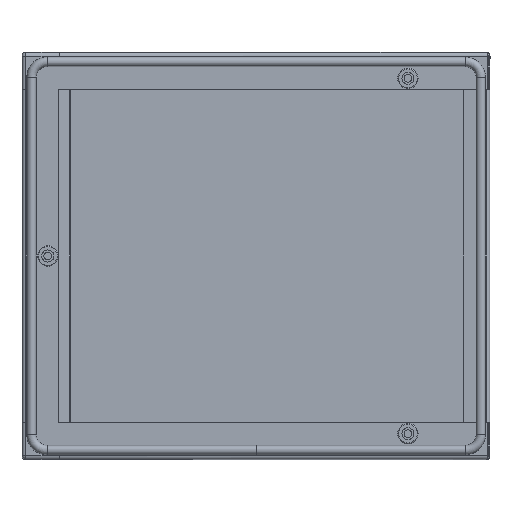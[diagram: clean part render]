
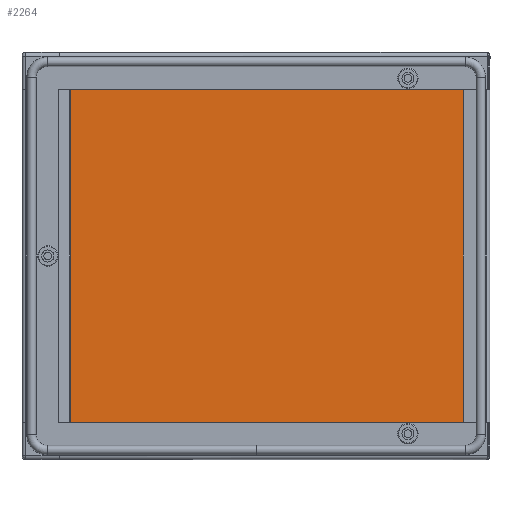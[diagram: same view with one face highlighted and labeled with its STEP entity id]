
A CAD part, left-side view. The second image highlights one B-rep face of the part: STEP entity #2264.
In plain terms, the highlighted planar face has unit normal (-1, 0, 0).
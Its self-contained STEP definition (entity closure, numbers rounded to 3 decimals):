
#39 = AXIS2_PLACEMENT_3D ( 'NONE', #1790, #9141, #6984 ) ;
#249 = EDGE_LOOP ( 'NONE', ( #7460, #4326, #9102, #5099 ) ) ;
#342 = VERTEX_POINT ( 'NONE', #6264 ) ;
#818 = VERTEX_POINT ( 'NONE', #6834 ) ;
#1356 = LINE ( 'NONE', #6422, #6952 ) ;
#1519 = CARTESIAN_POINT ( 'NONE',  ( -1.2, 131.606, -128.5 ) ) ;
#1775 = VECTOR ( 'NONE', #6709, 1000. ) ;
#1790 = CARTESIAN_POINT ( 'NONE',  ( -1.2, 0., 0. ) ) ;
#2257 = CARTESIAN_POINT ( 'NONE',  ( -1.2, -133.8, -127.6 ) ) ;
#2264 = ADVANCED_FACE ( 'NONE', ( #9113 ), #3966, .T. ) ;
#2658 = DIRECTION ( 'NONE',  ( 0., -1., 0. ) ) ;
#3008 = CARTESIAN_POINT ( 'NONE',  ( -1.2, -133.8, 128.5 ) ) ;
#3015 = DIRECTION ( 'NONE',  ( 0., 1., 0. ) ) ;
#3631 = VECTOR ( 'NONE', #3777, 1000. ) ;
#3777 = DIRECTION ( 'NONE',  ( 0., 0., -1. ) ) ;
#3966 = PLANE ( 'NONE',  #39 ) ;
#4326 = ORIENTED_EDGE ( 'NONE', *, *, #5384, .F. ) ;
#4453 = VECTOR ( 'NONE', #3015, 1000. ) ;
#4666 = LINE ( 'NONE', #2257, #4453 ) ;
#5099 = ORIENTED_EDGE ( 'NONE', *, *, #8212, .F. ) ;
#5225 = LINE ( 'NONE', #1519, #1775 ) ;
#5384 = EDGE_CURVE ( 'NONE', #342, #6768, #4666, .T. ) ;
#5504 = CARTESIAN_POINT ( 'NONE',  ( -1.2, -133.8, 127.6 ) ) ;
#6264 = CARTESIAN_POINT ( 'NONE',  ( -1.2, -133.8, -127.6 ) ) ;
#6422 = CARTESIAN_POINT ( 'NONE',  ( -1.2, 131.606, 127.6 ) ) ;
#6709 = DIRECTION ( 'NONE',  ( 0., 0., 1. ) ) ;
#6768 = VERTEX_POINT ( 'NONE', #8035 ) ;
#6834 = CARTESIAN_POINT ( 'NONE',  ( -1.2, 131.606, 127.6 ) ) ;
#6952 = VECTOR ( 'NONE', #2658, 1000. ) ;
#6984 = DIRECTION ( 'NONE',  ( 0., 0., 1. ) ) ;
#7113 = EDGE_CURVE ( 'NONE', #7424, #342, #8560, .T. ) ;
#7424 = VERTEX_POINT ( 'NONE', #5504 ) ;
#7460 = ORIENTED_EDGE ( 'NONE', *, *, #9067, .F. ) ;
#8035 = CARTESIAN_POINT ( 'NONE',  ( -1.2, 131.606, -127.6 ) ) ;
#8212 = EDGE_CURVE ( 'NONE', #818, #7424, #1356, .T. ) ;
#8560 = LINE ( 'NONE', #3008, #3631 ) ;
#9067 = EDGE_CURVE ( 'NONE', #6768, #818, #5225, .T. ) ;
#9102 = ORIENTED_EDGE ( 'NONE', *, *, #7113, .F. ) ;
#9113 = FACE_OUTER_BOUND ( 'NONE', #249, .T. ) ;
#9141 = DIRECTION ( 'NONE',  ( -1., 0., 0. ) ) ;
